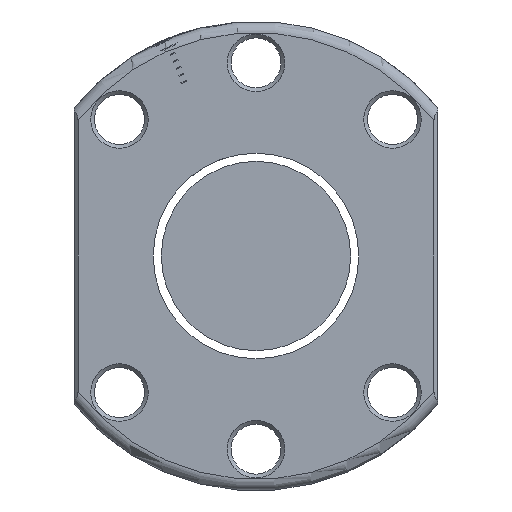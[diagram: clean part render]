
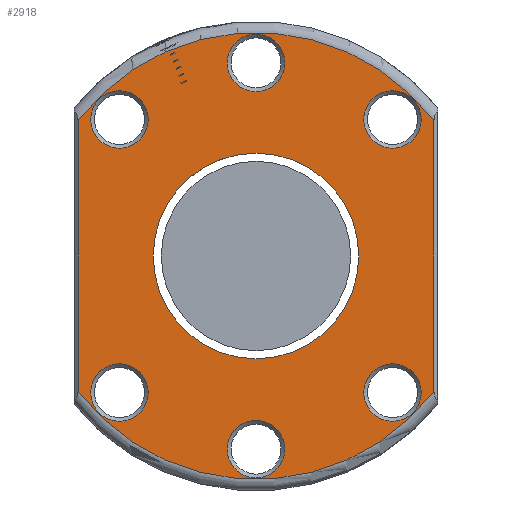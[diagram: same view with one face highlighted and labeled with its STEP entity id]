
A CAD part, left-side view. The second image highlights one B-rep face of the part: STEP entity #2918.
In plain terms, the highlighted planar face has unit normal (-1, 0, 0).
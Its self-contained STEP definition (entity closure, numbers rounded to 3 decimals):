
#14 = LINE ( 'NONE', #736, #1508 ) ;
#41 = DIRECTION ( 'NONE',  ( 0., 0., 1. ) ) ;
#64 = CIRCLE ( 'NONE', #2111, 3.8 ) ;
#115 = VECTOR ( 'NONE', #1639, 1000. ) ;
#148 = EDGE_LOOP ( 'NONE', ( #403 ) ) ;
#199 = EDGE_CURVE ( 'NONE', #1946, #1946, #1245, .T. ) ;
#229 = VERTEX_POINT ( 'NONE', #2623 ) ;
#238 = AXIS2_PLACEMENT_3D ( 'NONE', #2605, #2137, #3058 ) ;
#337 = ORIENTED_EDGE ( 'NONE', *, *, #1617, .T. ) ;
#345 = CARTESIAN_POINT ( 'NONE',  ( -54., 23.5, -17.833 ) ) ;
#387 = AXIS2_PLACEMENT_3D ( 'NONE', #1963, #2938, #443 ) ;
#403 = ORIENTED_EDGE ( 'NONE', *, *, #199, .T. ) ;
#407 = CARTESIAN_POINT ( 'NONE',  ( -54., -18.031, -18.031 ) ) ;
#415 = ORIENTED_EDGE ( 'NONE', *, *, #2549, .T. ) ;
#423 = CARTESIAN_POINT ( 'NONE',  ( -54., 18.031, 21.831 ) ) ;
#443 = DIRECTION ( 'NONE',  ( 0., 0., 1. ) ) ;
#457 = VERTEX_POINT ( 'NONE', #2652 ) ;
#625 = AXIS2_PLACEMENT_3D ( 'NONE', #2547, #1328, #41 ) ;
#630 = CIRCLE ( 'NONE', #839, 3.8 ) ;
#640 = EDGE_CURVE ( 'NONE', #229, #229, #2422, .T. ) ;
#654 = CARTESIAN_POINT ( 'NONE',  ( -54., 18.031, -18.031 ) ) ;
#688 = ORIENTED_EDGE ( 'NONE', *, *, #2943, .T. ) ;
#694 = CARTESIAN_POINT ( 'NONE',  ( -54., 0., -21.7 ) ) ;
#730 = FACE_OUTER_BOUND ( 'NONE', #1119, .T. ) ;
#736 = CARTESIAN_POINT ( 'NONE',  ( -54., -23.5, 19.621 ) ) ;
#786 = ORIENTED_EDGE ( 'NONE', *, *, #840, .T. ) ;
#839 = AXIS2_PLACEMENT_3D ( 'NONE', #1860, #869, #1127 ) ;
#840 = EDGE_CURVE ( 'NONE', #1638, #1638, #64, .T. ) ;
#869 = DIRECTION ( 'NONE',  ( 1., 0., 0. ) ) ;
#882 = FACE_BOUND ( 'NONE', #2897, .T. ) ;
#893 = DIRECTION ( 'NONE',  ( 1., 0., 0. ) ) ;
#955 = EDGE_CURVE ( 'NONE', #1886, #2524, #14, .T. ) ;
#981 = CARTESIAN_POINT ( 'NONE',  ( -54., 0., 29.3 ) ) ;
#983 = FACE_BOUND ( 'NONE', #2041, .T. ) ;
#1071 = ORIENTED_EDGE ( 'NONE', *, *, #955, .T. ) ;
#1085 = EDGE_CURVE ( 'NONE', #2411, #2411, #2634, .T. ) ;
#1094 = CIRCLE ( 'NONE', #3079, 13.57 ) ;
#1104 = ORIENTED_EDGE ( 'NONE', *, *, #1309, .T. ) ;
#1119 = EDGE_LOOP ( 'NONE', ( #1071, #2638, #1104, #415 ) ) ;
#1127 = DIRECTION ( 'NONE',  ( 0., 0., 1. ) ) ;
#1143 = CARTESIAN_POINT ( 'NONE',  ( -54., 0., 0. ) ) ;
#1191 = CARTESIAN_POINT ( 'NONE',  ( -54., -18.031, -14.231 ) ) ;
#1193 = FACE_BOUND ( 'NONE', #2705, .T. ) ;
#1240 = PLANE ( 'NONE',  #2895 ) ;
#1245 = CIRCLE ( 'NONE', #1506, 3.8 ) ;
#1309 = EDGE_CURVE ( 'NONE', #457, #1448, #3046, .T. ) ;
#1319 = DIRECTION ( 'NONE',  ( 0., 0., 1. ) ) ;
#1328 = DIRECTION ( 'NONE',  ( 1., 0., 0. ) ) ;
#1385 = DIRECTION ( 'NONE',  ( 0., 0., 1. ) ) ;
#1400 = CARTESIAN_POINT ( 'NONE',  ( -54., -23.5, 17.833 ) ) ;
#1412 = CIRCLE ( 'NONE', #387, 3.8 ) ;
#1416 = VERTEX_POINT ( 'NONE', #2151 ) ;
#1435 = FACE_BOUND ( 'NONE', #2038, .T. ) ;
#1448 = VERTEX_POINT ( 'NONE', #345 ) ;
#1453 = AXIS2_PLACEMENT_3D ( 'NONE', #654, #1923, #2616 ) ;
#1475 = EDGE_CURVE ( 'NONE', #2886, #2886, #630, .T. ) ;
#1506 = AXIS2_PLACEMENT_3D ( 'NONE', #407, #2521, #1385 ) ;
#1508 = VECTOR ( 'NONE', #1713, 1000. ) ;
#1567 = DIRECTION ( 'NONE',  ( 0., 0., -1. ) ) ;
#1599 = ORIENTED_EDGE ( 'NONE', *, *, #1475, .T. ) ;
#1617 = EDGE_CURVE ( 'NONE', #2447, #2447, #1094, .T. ) ;
#1638 = VERTEX_POINT ( 'NONE', #423 ) ;
#1639 = DIRECTION ( 'NONE',  ( 0., 0., -1. ) ) ;
#1659 = DIRECTION ( 'NONE',  ( -1., 0., 0. ) ) ;
#1709 = DIRECTION ( 'NONE',  ( 0., 0., 1. ) ) ;
#1713 = DIRECTION ( 'NONE',  ( 0., 0., 1. ) ) ;
#1860 = CARTESIAN_POINT ( 'NONE',  ( -54., 0., -25.5 ) ) ;
#1881 = DIRECTION ( 'NONE',  ( 1., 0., 0. ) ) ;
#1886 = VERTEX_POINT ( 'NONE', #2161 ) ;
#1923 = DIRECTION ( 'NONE',  ( 1., 0., 0. ) ) ;
#1944 = EDGE_LOOP ( 'NONE', ( #1599 ) ) ;
#1946 = VERTEX_POINT ( 'NONE', #1191 ) ;
#1963 = CARTESIAN_POINT ( 'NONE',  ( -54., -18.031, 18.031 ) ) ;
#2038 = EDGE_LOOP ( 'NONE', ( #337 ) ) ;
#2041 = EDGE_LOOP ( 'NONE', ( #688 ) ) ;
#2111 = AXIS2_PLACEMENT_3D ( 'NONE', #3083, #893, #2367 ) ;
#2135 = CARTESIAN_POINT ( 'NONE',  ( -54., 0., -13.57 ) ) ;
#2137 = DIRECTION ( 'NONE',  ( -1., 0., 0. ) ) ;
#2151 = CARTESIAN_POINT ( 'NONE',  ( -54., -18.031, 21.831 ) ) ;
#2161 = CARTESIAN_POINT ( 'NONE',  ( -54., -23.5, -17.833 ) ) ;
#2171 = CARTESIAN_POINT ( 'NONE',  ( -54., 31., 0. ) ) ;
#2181 = AXIS2_PLACEMENT_3D ( 'NONE', #2537, #2780, #1319 ) ;
#2327 = CARTESIAN_POINT ( 'NONE',  ( -54., 23.5, -19.621 ) ) ;
#2366 = ORIENTED_EDGE ( 'NONE', *, *, #1085, .T. ) ;
#2367 = DIRECTION ( 'NONE',  ( 0., 0., 1. ) ) ;
#2411 = VERTEX_POINT ( 'NONE', #981 ) ;
#2422 = CIRCLE ( 'NONE', #1453, 3.8 ) ;
#2441 = CIRCLE ( 'NONE', #2181, 29.5 ) ;
#2447 = VERTEX_POINT ( 'NONE', #2135 ) ;
#2498 = CIRCLE ( 'NONE', #238, 29.5 ) ;
#2521 = DIRECTION ( 'NONE',  ( 1., 0., 0. ) ) ;
#2524 = VERTEX_POINT ( 'NONE', #1400 ) ;
#2537 = CARTESIAN_POINT ( 'NONE',  ( -54., 0., 0. ) ) ;
#2547 = CARTESIAN_POINT ( 'NONE',  ( -54., 0., 25.5 ) ) ;
#2549 = EDGE_CURVE ( 'NONE', #1448, #1886, #2498, .T. ) ;
#2605 = CARTESIAN_POINT ( 'NONE',  ( -54., 0., 0. ) ) ;
#2616 = DIRECTION ( 'NONE',  ( 0., 0., 1. ) ) ;
#2623 = CARTESIAN_POINT ( 'NONE',  ( -54., 18.031, -14.231 ) ) ;
#2634 = CIRCLE ( 'NONE', #625, 3.8 ) ;
#2638 = ORIENTED_EDGE ( 'NONE', *, *, #3155, .T. ) ;
#2652 = CARTESIAN_POINT ( 'NONE',  ( -54., 23.5, 17.833 ) ) ;
#2705 = EDGE_LOOP ( 'NONE', ( #2366 ) ) ;
#2780 = DIRECTION ( 'NONE',  ( -1., 0., 0. ) ) ;
#2792 = ORIENTED_EDGE ( 'NONE', *, *, #640, .T. ) ;
#2886 = VERTEX_POINT ( 'NONE', #694 ) ;
#2895 = AXIS2_PLACEMENT_3D ( 'NONE', #2171, #1659, #1709 ) ;
#2897 = EDGE_LOOP ( 'NONE', ( #2792 ) ) ;
#2918 = ADVANCED_FACE ( 'NONE', ( #3071, #882, #3119, #3135, #983, #1193, #730, #1435 ), #1240, .T. ) ;
#2938 = DIRECTION ( 'NONE',  ( 1., 0., 0. ) ) ;
#2943 = EDGE_CURVE ( 'NONE', #1416, #1416, #1412, .T. ) ;
#3014 = EDGE_LOOP ( 'NONE', ( #786 ) ) ;
#3046 = LINE ( 'NONE', #2327, #115 ) ;
#3058 = DIRECTION ( 'NONE',  ( 0., 0., 1. ) ) ;
#3071 = FACE_BOUND ( 'NONE', #3014, .T. ) ;
#3079 = AXIS2_PLACEMENT_3D ( 'NONE', #1143, #1881, #1567 ) ;
#3083 = CARTESIAN_POINT ( 'NONE',  ( -54., 18.031, 18.031 ) ) ;
#3119 = FACE_BOUND ( 'NONE', #1944, .T. ) ;
#3135 = FACE_BOUND ( 'NONE', #148, .T. ) ;
#3155 = EDGE_CURVE ( 'NONE', #2524, #457, #2441, .T. ) ;
